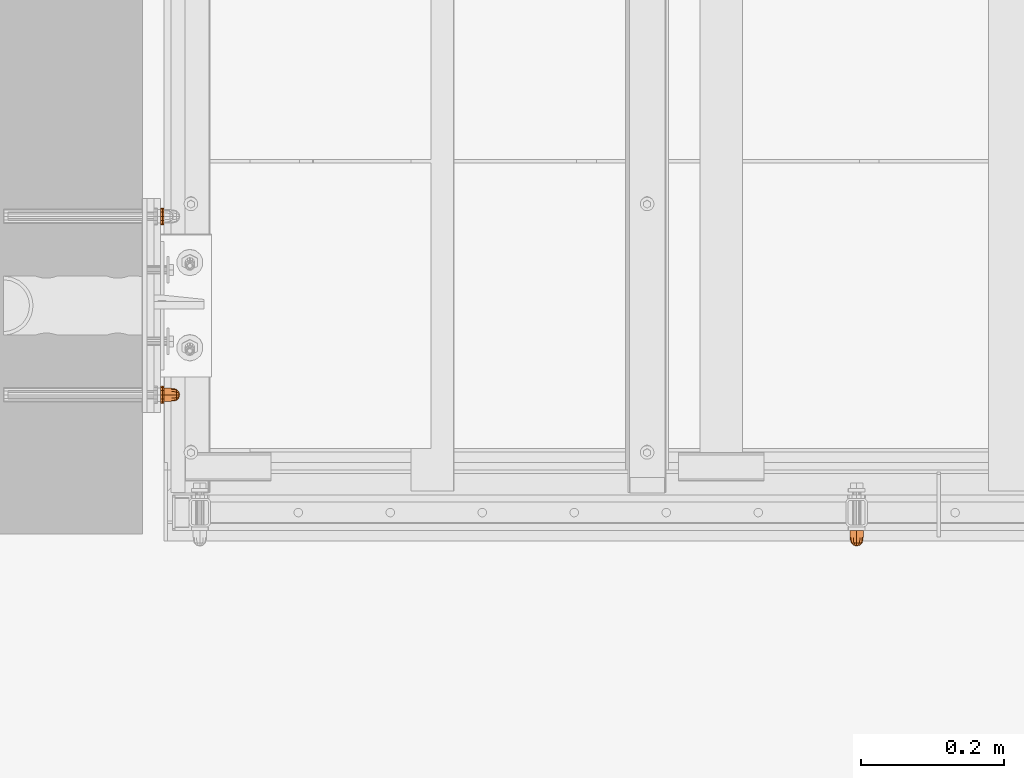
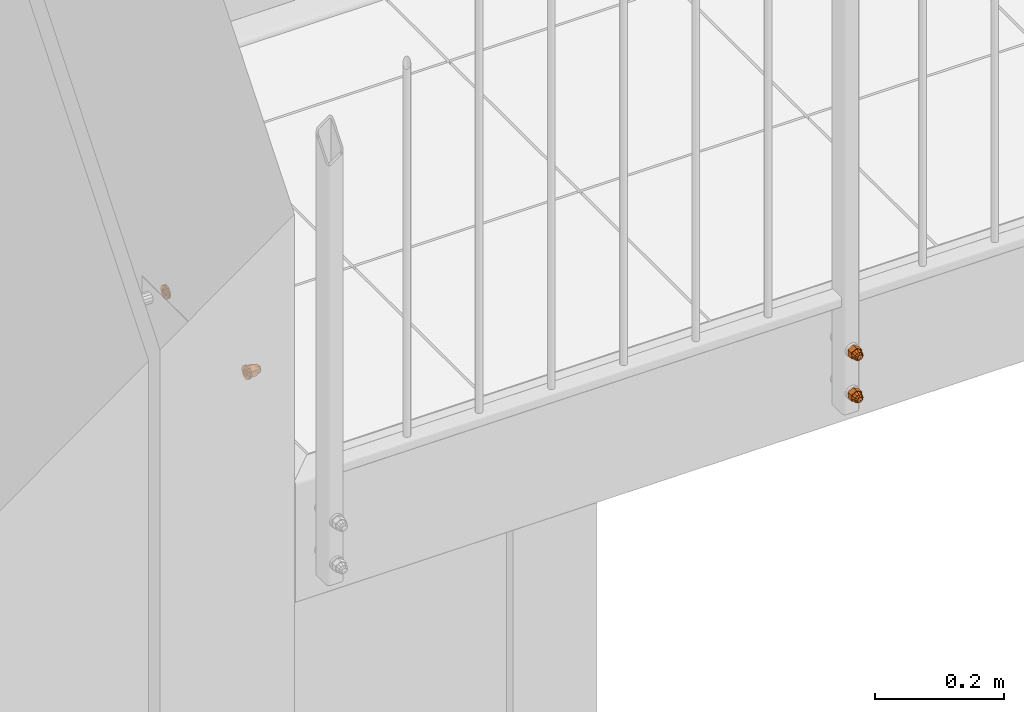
# One storey, part 116 of 162: 7 proxies.
"""IFC2X3 building model written with IfcOpenShell, lengths in millimetres."""

from ifc_helpers import new_model, entity, si_unit, converted_unit, origin_with_axes, place, context, project, spatial, faceted_brep, material, element, save


model = new_model("IFC2X3")

# Units and contexts
model_context = context("Model", 3, precision=1e-09, world=origin_with_axes())
ifc_project = project(units=[si_unit("LENGTHUNIT", "METRE", prefix="MILLI"), si_unit("AREAUNIT", "SQUARE_METRE"), si_unit("VOLUMEUNIT", "CUBIC_METRE"), converted_unit("PLANEANGLEUNIT", "DEGREE", entity("IfcPlaneAngleMeasure", 0.01745329), si_unit("PLANEANGLEUNIT", "RADIAN"), dimensions=[0, 0, 0, 0, 0, 0, 0])], contexts=[model_context])

# Site, building, storey
site_placement = place(None, origin_with_axes())
site = spatial("IfcSite", under=ifc_project, at=site_placement, Name="Hermannstra?e 1a, 60318 Frankfurt", CompositionType="ELEMENT")
building_placement = place(site_placement, origin_with_axes())
building = spatial("IfcBuilding", under=site, at=building_placement, Name="Struktur 1", CompositionType="ELEMENT")
storey_placement = place(building_placement, origin_with_axes())
storey = spatial("IfcBuildingStorey", under=building, at=storey_placement, Name="Default Storey", CompositionType="ELEMENT", Elevation=0.0)

# Proxies
ifc_material_1 = material(Name="Kein")
proxy_1_placement = place(None, origin_with_axes())
element("IfcBuildingElementProxy", 1, at=proxy_1_placement, inside=storey, material=ifc_material_1, ObjectType="-", context=model_context, shape_type="Brep", body=[
    faceted_brep([(3517.30936482, 1490.609373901, 3815.0), (3517.30936482, 1480.609373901, 3815.0), (3518.113212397, 1480.609373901, 3812.0), (3518.113212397, 1490.609373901, 3812.0), (3520.30936482, 1480.609373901, 3809.803847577), (3520.30936482, 1490.609373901, 3809.803847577), (3518.113212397, 1490.609373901, 3818.0), (3518.113212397, 1480.609373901, 3818.0), (3513.829495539, 1490.609373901, 3820.473205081), (3523.30936482, 1490.609373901, 3825.946410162), (3532.7892341, 1490.609373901, 3820.473205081), (3532.7892341, 1490.609373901, 3809.526794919), (3523.30936482, 1490.609373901, 3804.053589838), (3513.829495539, 1490.609373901, 3809.526794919), (3520.30936482, 1490.609373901, 3820.196152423), (3523.30936482, 1490.609373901, 3809.0), (3526.30936482, 1490.609373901, 3809.803847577), (3528.505517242, 1490.609373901, 3812.0), (3529.30936482, 1490.609373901, 3815.0), (3528.505517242, 1490.609373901, 3818.0), (3526.30936482, 1490.609373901, 3820.196152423), (3523.30936482, 1490.609373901, 3821.0), (3523.30936482, 1480.609373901, 3825.946410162), (3513.829495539, 1480.609373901, 3820.473205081), (3513.829495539, 1480.609373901, 3809.526794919), (3523.30936482, 1480.609373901, 3804.053589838), (3532.7892341, 1480.609373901, 3809.526794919), (3532.7892341, 1480.609373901, 3820.473205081), (3520.30936482, 1480.609373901, 3820.196152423), (3523.30936482, 1480.609373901, 3821.0), (3526.30936482, 1480.609373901, 3820.196152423), (3528.505517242, 1480.609373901, 3818.0), (3529.30936482, 1480.609373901, 3815.0), (3528.505517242, 1480.609373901, 3812.0), (3526.30936482, 1480.609373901, 3809.803847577), (3523.30936482, 1480.609373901, 3809.0)], [[[0, 1, 2, 3]], [[3, 2, 4, 5]], [[1, 0, 6, 7]], [[8, 9, 10, 11, 12, 13], [14, 6, 0, 3, 5, 15, 16, 17, 18, 19, 20, 21]], [[22, 23, 24, 25, 26, 27], [1, 7, 28, 29, 30, 31, 32, 33, 34, 35, 4, 2]], [[7, 6, 14, 28]], [[24, 23, 8, 13]], [[5, 4, 35, 15]], [[13, 12, 25, 24]], [[28, 14, 21, 29]], [[23, 22, 9, 8]], [[15, 35, 34, 16]], [[12, 11, 26, 25]], [[29, 21, 20, 30]], [[22, 27, 10, 9]], [[16, 34, 33, 17]], [[27, 26, 11, 10]], [[30, 20, 19, 31]], [[17, 33, 32, 18]], [[31, 19, 18, 32]]]),
    faceted_brep([(3523.30936482, 1480.609373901, 3824.0), (3523.30936482, 1477.609373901, 3824.0), (3527.80936482, 1477.609373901, 3822.794228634), (3527.80936482, 1480.609373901, 3822.794228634), (3518.80936482, 1480.609373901, 3822.794228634), (3518.80936482, 1477.609373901, 3822.794228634), (3515.515136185, 1477.609373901, 3810.5), (3518.80936482, 1477.609373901, 3807.205771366), (3523.30936482, 1477.609373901, 3806.0), (3527.80936482, 1477.609373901, 3807.205771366), (3531.103593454, 1477.609373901, 3810.5), (3532.30936482, 1477.609373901, 3815.0), (3531.103593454, 1477.609373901, 3819.5), (3515.515136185, 1477.609373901, 3819.5), (3514.30936482, 1477.609373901, 3815.0), (3531.103593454, 1480.609373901, 3810.5), (3527.80936482, 1480.609373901, 3807.205771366), (3523.30936482, 1480.609373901, 3806.0), (3518.80936482, 1480.609373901, 3807.205771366), (3515.515136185, 1480.609373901, 3810.5), (3514.30936482, 1480.609373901, 3815.0), (3515.515136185, 1480.609373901, 3819.5), (3531.103593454, 1480.609373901, 3819.5), (3532.30936482, 1480.609373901, 3815.0)], [[[0, 1, 2, 3]], [[1, 0, 4, 5]], [[6, 7, 8, 9, 10, 11, 12, 2, 1, 5, 13, 14]], [[15, 16, 17, 18, 19, 20, 21, 4, 0, 3, 22, 23]], [[3, 2, 12, 22]], [[5, 4, 21, 13]], [[22, 12, 11, 23]], [[13, 21, 20, 14]], [[7, 18, 17, 8]], [[19, 6, 14, 20]], [[18, 7, 6, 19]], [[23, 11, 10, 15]], [[8, 17, 16, 9]], [[15, 10, 9, 16]]]),
    faceted_brep([(3515.515136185, 1477.609373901, 3819.5), (3516.55936482, 1473.109373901, 3818.897114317), (3519.412250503, 1473.109373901, 3821.75), (3518.80936482, 1477.609373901, 3822.794228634), (3531.103593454, 1477.609373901, 3810.5), (3527.80936482, 1477.609373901, 3807.205771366), (3523.30936482, 1477.609373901, 3806.0), (3518.80936482, 1477.609373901, 3807.205771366), (3515.515136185, 1477.609373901, 3810.5), (3514.30936482, 1477.609373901, 3815.0), (3523.30936482, 1477.609373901, 3824.0), (3527.80936482, 1477.609373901, 3822.794228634), (3531.103593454, 1477.609373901, 3819.5), (3532.30936482, 1477.609373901, 3815.0), (3523.30936482, 1473.109373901, 3822.794228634), (3515.515136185, 1473.109373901, 3815.0), (3518.80936482, 1469.815145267, 3815.0), (3519.412250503, 1469.815145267, 3817.25), (3527.206479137, 1473.109373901, 3821.75), (3521.05936482, 1469.815145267, 3818.897114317), (3516.55936482, 1473.109373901, 3811.102885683), (3519.412250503, 1469.815145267, 3812.75), (3523.30936482, 1469.815145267, 3819.5), (3523.30936482, 1468.609373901, 3815.0), (3519.412250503, 1473.109373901, 3808.25), (3521.05936482, 1469.815145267, 3811.102885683), (3523.30936482, 1473.109373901, 3807.205771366), (3530.05936482, 1473.109373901, 3818.897114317), (3525.55936482, 1469.815145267, 3818.897114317), (3523.30936482, 1469.815145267, 3810.5), (3527.206479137, 1473.109373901, 3808.25), (3525.55936482, 1469.815145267, 3811.102885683), (3531.103593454, 1473.109373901, 3815.0), (3527.206479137, 1469.815145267, 3817.25), (3530.05936482, 1473.109373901, 3811.102885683), (3527.206479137, 1469.815145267, 3812.75), (3527.80936482, 1469.815145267, 3815.0)], [[[0, 1, 2, 3]], [[4, 5, 6, 7, 8, 9, 0, 3, 10, 11, 12, 13]], [[3, 2, 14, 10]], [[15, 16, 17, 1]], [[1, 0, 9, 15]], [[10, 14, 18, 11]], [[1, 17, 19, 2]], [[16, 15, 20, 21]], [[2, 19, 22, 14]], [[23, 17, 16]], [[24, 25, 21, 20]], [[23, 16, 21]], [[24, 7, 6, 26]], [[20, 8, 7, 24]], [[15, 9, 8, 20]], [[11, 18, 27, 12]], [[14, 22, 28, 18]], [[23, 19, 17]], [[26, 29, 25, 24]], [[23, 21, 25]], [[23, 22, 19]], [[26, 6, 5, 30]], [[29, 26, 30, 31]], [[23, 25, 29]], [[12, 27, 32, 13]], [[18, 28, 33, 27]], [[23, 28, 22]], [[23, 29, 31]], [[23, 33, 28]], [[30, 5, 4, 34]], [[31, 30, 34, 35]], [[23, 31, 35]], [[13, 32, 34, 4]], [[27, 33, 36, 32]], [[23, 36, 33]], [[23, 35, 36]], [[35, 34, 32, 36]]]),
])
proxy_2_placement = place(None, origin_with_axes())
element("IfcBuildingElementProxy", 2, at=proxy_2_placement, inside=storey, material=ifc_material_1, ObjectType="-", context=model_context, shape_type="Brep", body=[
    faceted_brep([(3517.30936482, 1490.609373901, 3895.0), (3517.30936482, 1480.609373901, 3895.0), (3518.113212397, 1480.609373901, 3892.0), (3518.113212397, 1490.609373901, 3892.0), (3520.30936482, 1480.609373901, 3889.803847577), (3520.30936482, 1490.609373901, 3889.803847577), (3518.113212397, 1490.609373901, 3898.0), (3518.113212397, 1480.609373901, 3898.0), (3513.829495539, 1490.609373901, 3900.473205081), (3523.30936482, 1490.609373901, 3905.946410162), (3532.7892341, 1490.609373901, 3900.473205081), (3532.7892341, 1490.609373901, 3889.526794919), (3523.30936482, 1490.609373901, 3884.053589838), (3513.829495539, 1490.609373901, 3889.526794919), (3520.30936482, 1490.609373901, 3900.196152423), (3523.30936482, 1490.609373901, 3889.0), (3526.30936482, 1490.609373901, 3889.803847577), (3528.505517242, 1490.609373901, 3892.0), (3529.30936482, 1490.609373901, 3895.0), (3528.505517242, 1490.609373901, 3898.0), (3526.30936482, 1490.609373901, 3900.196152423), (3523.30936482, 1490.609373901, 3901.0), (3523.30936482, 1480.609373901, 3905.946410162), (3513.829495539, 1480.609373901, 3900.473205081), (3513.829495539, 1480.609373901, 3889.526794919), (3523.30936482, 1480.609373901, 3884.053589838), (3532.7892341, 1480.609373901, 3889.526794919), (3532.7892341, 1480.609373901, 3900.473205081), (3520.30936482, 1480.609373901, 3900.196152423), (3523.30936482, 1480.609373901, 3901.0), (3526.30936482, 1480.609373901, 3900.196152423), (3528.505517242, 1480.609373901, 3898.0), (3529.30936482, 1480.609373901, 3895.0), (3528.505517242, 1480.609373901, 3892.0), (3526.30936482, 1480.609373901, 3889.803847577), (3523.30936482, 1480.609373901, 3889.0)], [[[0, 1, 2, 3]], [[3, 2, 4, 5]], [[1, 0, 6, 7]], [[8, 9, 10, 11, 12, 13], [14, 6, 0, 3, 5, 15, 16, 17, 18, 19, 20, 21]], [[22, 23, 24, 25, 26, 27], [1, 7, 28, 29, 30, 31, 32, 33, 34, 35, 4, 2]], [[7, 6, 14, 28]], [[24, 23, 8, 13]], [[5, 4, 35, 15]], [[13, 12, 25, 24]], [[28, 14, 21, 29]], [[23, 22, 9, 8]], [[15, 35, 34, 16]], [[12, 11, 26, 25]], [[29, 21, 20, 30]], [[22, 27, 10, 9]], [[16, 34, 33, 17]], [[27, 26, 11, 10]], [[30, 20, 19, 31]], [[17, 33, 32, 18]], [[31, 19, 18, 32]]]),
    faceted_brep([(3523.30936482, 1480.609373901, 3904.0), (3523.30936482, 1477.609373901, 3904.0), (3527.80936482, 1477.609373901, 3902.794228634), (3527.80936482, 1480.609373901, 3902.794228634), (3518.80936482, 1480.609373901, 3902.794228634), (3518.80936482, 1477.609373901, 3902.794228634), (3515.515136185, 1477.609373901, 3890.5), (3518.80936482, 1477.609373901, 3887.205771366), (3523.30936482, 1477.609373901, 3886.0), (3527.80936482, 1477.609373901, 3887.205771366), (3531.103593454, 1477.609373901, 3890.5), (3532.30936482, 1477.609373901, 3895.0), (3531.103593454, 1477.609373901, 3899.5), (3515.515136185, 1477.609373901, 3899.5), (3514.30936482, 1477.609373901, 3895.0), (3531.103593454, 1480.609373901, 3890.5), (3527.80936482, 1480.609373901, 3887.205771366), (3523.30936482, 1480.609373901, 3886.0), (3518.80936482, 1480.609373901, 3887.205771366), (3515.515136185, 1480.609373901, 3890.5), (3514.30936482, 1480.609373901, 3895.0), (3515.515136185, 1480.609373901, 3899.5), (3531.103593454, 1480.609373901, 3899.5), (3532.30936482, 1480.609373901, 3895.0)], [[[0, 1, 2, 3]], [[1, 0, 4, 5]], [[6, 7, 8, 9, 10, 11, 12, 2, 1, 5, 13, 14]], [[15, 16, 17, 18, 19, 20, 21, 4, 0, 3, 22, 23]], [[3, 2, 12, 22]], [[5, 4, 21, 13]], [[22, 12, 11, 23]], [[13, 21, 20, 14]], [[7, 18, 17, 8]], [[19, 6, 14, 20]], [[18, 7, 6, 19]], [[23, 11, 10, 15]], [[8, 17, 16, 9]], [[15, 10, 9, 16]]]),
    faceted_brep([(3515.515136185, 1477.609373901, 3899.5), (3516.55936482, 1473.109373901, 3898.897114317), (3519.412250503, 1473.109373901, 3901.75), (3518.80936482, 1477.609373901, 3902.794228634), (3531.103593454, 1477.609373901, 3890.5), (3527.80936482, 1477.609373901, 3887.205771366), (3523.30936482, 1477.609373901, 3886.0), (3518.80936482, 1477.609373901, 3887.205771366), (3515.515136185, 1477.609373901, 3890.5), (3514.30936482, 1477.609373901, 3895.0), (3523.30936482, 1477.609373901, 3904.0), (3527.80936482, 1477.609373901, 3902.794228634), (3531.103593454, 1477.609373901, 3899.5), (3532.30936482, 1477.609373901, 3895.0), (3523.30936482, 1473.109373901, 3902.794228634), (3515.515136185, 1473.109373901, 3895.0), (3518.80936482, 1469.815145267, 3895.0), (3519.412250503, 1469.815145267, 3897.25), (3527.206479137, 1473.109373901, 3901.75), (3521.05936482, 1469.815145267, 3898.897114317), (3516.55936482, 1473.109373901, 3891.102885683), (3519.412250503, 1469.815145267, 3892.75), (3523.30936482, 1469.815145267, 3899.5), (3523.30936482, 1468.609373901, 3895.0), (3519.412250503, 1473.109373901, 3888.25), (3521.05936482, 1469.815145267, 3891.102885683), (3523.30936482, 1473.109373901, 3887.205771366), (3530.05936482, 1473.109373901, 3898.897114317), (3525.55936482, 1469.815145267, 3898.897114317), (3523.30936482, 1469.815145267, 3890.5), (3527.206479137, 1473.109373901, 3888.25), (3525.55936482, 1469.815145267, 3891.102885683), (3531.103593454, 1473.109373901, 3895.0), (3527.206479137, 1469.815145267, 3897.25), (3530.05936482, 1473.109373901, 3891.102885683), (3527.206479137, 1469.815145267, 3892.75), (3527.80936482, 1469.815145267, 3895.0)], [[[0, 1, 2, 3]], [[4, 5, 6, 7, 8, 9, 0, 3, 10, 11, 12, 13]], [[3, 2, 14, 10]], [[15, 16, 17, 1]], [[1, 0, 9, 15]], [[10, 14, 18, 11]], [[1, 17, 19, 2]], [[16, 15, 20, 21]], [[2, 19, 22, 14]], [[23, 17, 16]], [[24, 25, 21, 20]], [[23, 16, 21]], [[24, 7, 6, 26]], [[20, 8, 7, 24]], [[15, 9, 8, 20]], [[11, 18, 27, 12]], [[14, 22, 28, 18]], [[23, 19, 17]], [[26, 29, 25, 24]], [[23, 21, 25]], [[23, 22, 19]], [[26, 6, 5, 30]], [[29, 26, 30, 31]], [[23, 25, 29]], [[12, 27, 32, 13]], [[18, 28, 33, 27]], [[23, 28, 22]], [[23, 29, 31]], [[23, 33, 28]], [[30, 5, 4, 34]], [[31, 30, 34, 35]], [[23, 31, 35]], [[13, 32, 34, 4]], [[27, 33, 36, 32]], [[23, 36, 33]], [[23, 35, 36]], [[35, 34, 32, 36]]]),
])
ifc_material_2 = material(Name="A4")
proxy_3_placement = place(None, origin_with_axes())
element("IfcBuildingElementProxy", 3, at=proxy_3_placement, inside=storey, material=ifc_material_2, ObjectType="-", context=model_context, shape_type="Brep", body=[
    faceted_brep([(2553.310071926, 1920.217776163, 4074.0), (2550.810071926, 1920.217776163, 4074.0), (2550.810071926, 1924.610081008, 4069.607695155), (2553.310071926, 1924.610081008, 4069.607695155), (2553.310071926, 1930.610081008, 4068.0), (2553.310071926, 1936.610081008, 4069.607695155), (2553.310071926, 1941.002385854, 4074.0), (2553.310071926, 1942.610081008, 4080.0), (2553.310071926, 1941.002385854, 4086.0), (2553.310071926, 1936.610081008, 4090.392304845), (2553.310071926, 1930.610081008, 4092.0), (2553.310071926, 1924.610081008, 4090.392304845), (2553.310071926, 1920.217776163, 4086.0), (2553.310071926, 1918.610081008, 4080.0), (2553.310071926, 1933.860081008, 4074.370834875), (2553.310071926, 1930.610081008, 4073.5), (2553.310071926, 1927.360081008, 4074.370834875), (2553.310071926, 1924.980915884, 4076.75), (2553.310071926, 1924.110081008, 4080.0), (2553.310071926, 1924.980915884, 4083.25), (2553.310071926, 1927.360081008, 4085.629165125), (2553.310071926, 1930.610081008, 4086.5), (2553.310071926, 1933.860081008, 4085.629165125), (2553.310071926, 1936.239246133, 4083.25), (2553.310071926, 1937.110081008, 4080.0), (2553.310071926, 1936.239246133, 4076.75), (2550.810071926, 1918.610081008, 4080.0), (2550.810071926, 1920.217776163, 4086.0), (2550.810071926, 1924.610081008, 4090.392304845), (2550.810071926, 1930.610081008, 4092.0), (2550.810071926, 1936.610081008, 4090.392304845), (2550.810071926, 1941.002385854, 4086.0), (2550.810071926, 1942.610081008, 4080.0), (2550.810071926, 1941.002385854, 4074.0), (2550.810071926, 1936.610081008, 4069.607695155), (2550.810071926, 1930.610081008, 4068.0), (2550.810071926, 1924.110081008, 4080.0), (2550.810071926, 1924.980915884, 4076.75), (2550.810071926, 1927.360081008, 4074.370834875), (2550.810071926, 1930.610081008, 4073.5), (2550.810071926, 1933.860081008, 4074.370834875), (2550.810071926, 1936.239246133, 4076.75), (2550.810071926, 1937.110081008, 4080.0), (2550.810071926, 1936.239246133, 4083.25), (2550.810071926, 1933.860081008, 4085.629165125), (2550.810071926, 1930.610081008, 4086.5), (2550.810071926, 1927.360081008, 4085.629165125), (2550.810071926, 1924.980915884, 4083.25)], [[[0, 1, 2, 3]], [[3, 4, 5, 6, 7, 8, 9, 10, 11, 12, 13, 0], [14, 15, 16, 17, 18, 19, 20, 21, 22, 23, 24, 25]], [[1, 26, 27, 28, 29, 30, 31, 32, 33, 34, 35, 2], [36, 37, 38, 39, 40, 41, 42, 43, 44, 45, 46, 47]], [[37, 17, 16, 38]], [[1, 0, 13, 26]], [[17, 37, 36, 18]], [[38, 16, 15, 39]], [[3, 2, 35, 4]], [[26, 13, 12, 27]], [[18, 36, 47, 19]], [[39, 15, 14, 40]], [[4, 35, 34, 5]], [[27, 12, 11, 28]], [[19, 47, 46, 20]], [[40, 14, 25, 41]], [[5, 34, 33, 6]], [[24, 42, 41, 25]], [[28, 11, 10, 29]], [[20, 46, 45, 21]], [[23, 43, 42, 24]], [[6, 33, 32, 7]], [[44, 22, 21, 45]], [[43, 23, 22, 44]], [[29, 10, 9, 30]], [[7, 32, 31, 8]], [[30, 9, 8, 31]]]),
])
ifc_material_3 = material(Name="Kunststoff")
proxy_4_placement = place(None, origin_with_axes())
element("IfcBuildingElementProxy", 4, at=proxy_4_placement, inside=storey, material=ifc_material_3, ObjectType="-", context=model_context, shape_type="Brep", body=[
    faceted_brep([(2550.810071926, 1941.002385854, 4074.0), (2548.310071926, 1941.002385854, 4074.0), (2548.310071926, 1942.610081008, 4080.0), (2550.810071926, 1942.610081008, 4080.0), (2548.310071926, 1936.610081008, 4069.607695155), (2548.310071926, 1930.610081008, 4068.0), (2548.310071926, 1924.610081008, 4069.607695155), (2548.310071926, 1920.217776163, 4074.0), (2548.310071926, 1918.610081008, 4080.0), (2548.310071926, 1920.217776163, 4086.0), (2548.310071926, 1924.610081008, 4090.392304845), (2548.310071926, 1930.610081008, 4092.0), (2548.310071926, 1936.610081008, 4090.392304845), (2548.310071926, 1941.002385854, 4086.0), (2548.310071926, 1933.860081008, 4074.370834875), (2548.310071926, 1936.239246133, 4076.75), (2548.310071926, 1937.110081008, 4080.0), (2548.310071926, 1936.239246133, 4083.25), (2548.310071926, 1933.860081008, 4085.629165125), (2548.310071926, 1930.610081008, 4086.5), (2548.310071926, 1927.360081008, 4085.629165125), (2548.310071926, 1924.980915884, 4083.25), (2548.310071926, 1924.110081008, 4080.0), (2548.310071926, 1924.980915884, 4076.75), (2548.310071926, 1927.360081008, 4074.370834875), (2548.310071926, 1930.610081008, 4073.5), (2550.810071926, 1937.110081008, 4080.0), (2550.810071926, 1936.239246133, 4076.75), (2550.810071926, 1936.610081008, 4069.607695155), (2550.810071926, 1941.002385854, 4086.0), (2550.810071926, 1936.610081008, 4090.392304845), (2550.810071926, 1930.610081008, 4092.0), (2550.810071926, 1924.610081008, 4090.392304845), (2550.810071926, 1920.217776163, 4086.0), (2550.810071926, 1918.610081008, 4080.0), (2550.810071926, 1920.217776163, 4074.0), (2550.810071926, 1924.610081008, 4069.607695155), (2550.810071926, 1930.610081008, 4068.0), (2550.810071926, 1933.860081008, 4074.370834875), (2550.810071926, 1930.610081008, 4073.5), (2550.810071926, 1927.360081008, 4074.370834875), (2550.810071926, 1924.980915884, 4076.75), (2550.810071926, 1924.110081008, 4080.0), (2550.810071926, 1924.980915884, 4083.25), (2550.810071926, 1927.360081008, 4085.629165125), (2550.810071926, 1930.610081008, 4086.5), (2550.810071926, 1933.860081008, 4085.629165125), (2550.810071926, 1936.239246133, 4083.25)], [[[0, 1, 2, 3]], [[1, 4, 5, 6, 7, 8, 9, 10, 11, 12, 13, 2], [14, 15, 16, 17, 18, 19, 20, 21, 22, 23, 24, 25]], [[26, 16, 15, 27]], [[28, 0, 3, 29, 30, 31, 32, 33, 34, 35, 36, 37], [26, 27, 38, 39, 40, 41, 42, 43, 44, 45, 46, 47]], [[1, 0, 28, 4]], [[16, 26, 47, 17]], [[3, 2, 13, 29]], [[27, 15, 14, 38]], [[4, 28, 37, 5]], [[17, 47, 46, 18]], [[29, 13, 12, 30]], [[38, 14, 25, 39]], [[18, 46, 45, 19]], [[5, 37, 36, 6]], [[39, 25, 24, 40]], [[30, 12, 11, 31]], [[19, 45, 44, 20]], [[6, 36, 35, 7]], [[40, 24, 23, 41]], [[31, 11, 10, 32]], [[20, 44, 43, 21]], [[7, 35, 34, 8]], [[41, 23, 22, 42]], [[32, 10, 9, 33]], [[21, 43, 42, 22]], [[8, 34, 33, 9]]]),
])
proxy_5_placement = place(None, origin_with_axes())
element("IfcBuildingElementProxy", 5, at=proxy_5_placement, inside=storey, material=ifc_material_2, ObjectType="-", context=model_context, shape_type="Brep", body=[
    faceted_brep([(2553.310071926, 1686.610081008, 4080.0), (2563.310071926, 1686.610081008, 4080.0), (2563.310071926, 1685.806233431, 4083.0), (2553.310071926, 1685.806233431, 4083.0), (2563.310071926, 1683.610081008, 4085.196152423), (2553.310071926, 1683.610081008, 4085.196152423), (2553.310071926, 1685.806233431, 4077.0), (2563.310071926, 1685.806233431, 4077.0), (2553.310071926, 1690.089950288, 4074.526794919), (2553.310071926, 1680.610081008, 4069.053589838), (2553.310071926, 1671.130211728, 4074.526794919), (2553.310071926, 1671.130211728, 4085.473205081), (2553.310071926, 1680.610081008, 4090.946410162), (2553.310071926, 1690.089950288, 4085.473205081), (2553.310071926, 1683.610081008, 4074.803847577), (2553.310071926, 1680.610081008, 4086.0), (2553.310071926, 1677.610081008, 4085.196152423), (2553.310071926, 1675.413928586, 4083.0), (2553.310071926, 1674.610081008, 4080.0), (2553.310071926, 1675.413928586, 4077.0), (2553.310071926, 1677.610081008, 4074.803847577), (2553.310071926, 1680.610081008, 4074.0), (2563.310071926, 1680.610081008, 4069.053589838), (2563.310071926, 1690.089950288, 4074.526794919), (2563.310071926, 1690.089950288, 4085.473205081), (2563.310071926, 1680.610081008, 4090.946410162), (2563.310071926, 1671.130211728, 4085.473205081), (2563.310071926, 1671.130211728, 4074.526794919), (2563.310071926, 1683.610081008, 4074.803847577), (2563.310071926, 1680.610081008, 4074.0), (2563.310071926, 1677.610081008, 4074.803847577), (2563.310071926, 1675.413928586, 4077.0), (2563.310071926, 1674.610081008, 4080.0), (2563.310071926, 1675.413928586, 4083.0), (2563.310071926, 1677.610081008, 4085.196152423), (2563.310071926, 1680.610081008, 4086.0)], [[[0, 1, 2, 3]], [[3, 2, 4, 5]], [[1, 0, 6, 7]], [[8, 9, 10, 11, 12, 13], [14, 6, 0, 3, 5, 15, 16, 17, 18, 19, 20, 21]], [[22, 23, 24, 25, 26, 27], [1, 7, 28, 29, 30, 31, 32, 33, 34, 35, 4, 2]], [[7, 6, 14, 28]], [[24, 23, 8, 13]], [[5, 4, 35, 15]], [[13, 12, 25, 24]], [[28, 14, 21, 29]], [[23, 22, 9, 8]], [[15, 35, 34, 16]], [[12, 11, 26, 25]], [[29, 21, 20, 30]], [[22, 27, 10, 9]], [[16, 34, 33, 17]], [[27, 26, 11, 10]], [[30, 20, 19, 31]], [[17, 33, 32, 18]], [[31, 19, 18, 32]]]),
    faceted_brep([(2563.310071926, 1680.610081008, 4071.0), (2566.310071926, 1680.610081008, 4071.0), (2566.310071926, 1676.110081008, 4072.205771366), (2563.310071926, 1676.110081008, 4072.205771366), (2563.310071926, 1685.110081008, 4072.205771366), (2566.310071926, 1685.110081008, 4072.205771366), (2566.310071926, 1688.404309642, 4084.5), (2566.310071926, 1685.110081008, 4087.794228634), (2566.310071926, 1680.610081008, 4089.0), (2566.310071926, 1676.110081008, 4087.794228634), (2566.310071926, 1672.815852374, 4084.5), (2566.310071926, 1671.610081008, 4080.0), (2566.310071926, 1672.815852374, 4075.5), (2566.310071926, 1688.404309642, 4075.5), (2566.310071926, 1689.610081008, 4080.0), (2563.310071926, 1672.815852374, 4084.5), (2563.310071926, 1676.110081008, 4087.794228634), (2563.310071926, 1680.610081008, 4089.0), (2563.310071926, 1685.110081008, 4087.794228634), (2563.310071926, 1688.404309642, 4084.5), (2563.310071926, 1689.610081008, 4080.0), (2563.310071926, 1688.404309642, 4075.5), (2563.310071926, 1672.815852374, 4075.5), (2563.310071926, 1671.610081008, 4080.0)], [[[0, 1, 2, 3]], [[1, 0, 4, 5]], [[6, 7, 8, 9, 10, 11, 12, 2, 1, 5, 13, 14]], [[15, 16, 17, 18, 19, 20, 21, 4, 0, 3, 22, 23]], [[3, 2, 12, 22]], [[5, 4, 21, 13]], [[22, 12, 11, 23]], [[13, 21, 20, 14]], [[7, 18, 17, 8]], [[19, 6, 14, 20]], [[18, 7, 6, 19]], [[23, 11, 10, 15]], [[8, 17, 16, 9]], [[15, 10, 9, 16]]]),
    faceted_brep([(2566.310071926, 1688.404309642, 4075.5), (2570.810071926, 1687.360081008, 4076.102885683), (2570.810071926, 1684.507195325, 4073.25), (2566.310071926, 1685.110081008, 4072.205771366), (2566.310071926, 1672.815852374, 4084.5), (2566.310071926, 1676.110081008, 4087.794228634), (2566.310071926, 1680.610081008, 4089.0), (2566.310071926, 1685.110081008, 4087.794228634), (2566.310071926, 1688.404309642, 4084.5), (2566.310071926, 1689.610081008, 4080.0), (2566.310071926, 1680.610081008, 4071.0), (2566.310071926, 1676.110081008, 4072.205771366), (2566.310071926, 1672.815852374, 4075.5), (2566.310071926, 1671.610081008, 4080.0), (2570.810071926, 1680.610081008, 4072.205771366), (2570.810071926, 1688.404309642, 4080.0), (2574.104300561, 1685.110081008, 4080.0), (2574.104300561, 1684.507195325, 4077.75), (2570.810071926, 1676.712966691, 4073.25), (2574.104300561, 1682.860081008, 4076.102885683), (2570.810071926, 1687.360081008, 4083.897114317), (2574.104300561, 1684.507195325, 4082.25), (2574.104300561, 1680.610081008, 4075.5), (2575.310071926, 1680.610081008, 4080.0), (2570.810071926, 1684.507195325, 4086.75), (2574.104300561, 1682.860081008, 4083.897114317), (2570.810071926, 1680.610081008, 4087.794228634), (2570.810071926, 1673.860081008, 4076.102885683), (2574.104300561, 1678.360081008, 4076.102885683), (2574.104300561, 1680.610081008, 4084.5), (2570.810071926, 1676.712966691, 4086.75), (2574.104300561, 1678.360081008, 4083.897114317), (2570.810071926, 1672.815852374, 4080.0), (2574.104300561, 1676.712966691, 4077.75), (2570.810071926, 1673.860081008, 4083.897114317), (2574.104300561, 1676.712966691, 4082.25), (2574.104300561, 1676.110081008, 4080.0)], [[[0, 1, 2, 3]], [[4, 5, 6, 7, 8, 9, 0, 3, 10, 11, 12, 13]], [[3, 2, 14, 10]], [[15, 16, 17, 1]], [[1, 0, 9, 15]], [[10, 14, 18, 11]], [[1, 17, 19, 2]], [[16, 15, 20, 21]], [[2, 19, 22, 14]], [[23, 17, 16]], [[24, 25, 21, 20]], [[23, 16, 21]], [[24, 7, 6, 26]], [[20, 8, 7, 24]], [[15, 9, 8, 20]], [[11, 18, 27, 12]], [[14, 22, 28, 18]], [[23, 19, 17]], [[26, 29, 25, 24]], [[23, 21, 25]], [[23, 22, 19]], [[26, 6, 5, 30]], [[29, 26, 30, 31]], [[23, 25, 29]], [[12, 27, 32, 13]], [[18, 28, 33, 27]], [[23, 28, 22]], [[23, 29, 31]], [[23, 33, 28]], [[30, 5, 4, 34]], [[31, 30, 34, 35]], [[23, 31, 35]], [[13, 32, 34, 4]], [[27, 33, 36, 32]], [[23, 36, 33]], [[23, 35, 36]], [[35, 34, 32, 36]]]),
])
proxy_6_placement = place(None, origin_with_axes())
element("IfcBuildingElementProxy", 6, at=proxy_6_placement, inside=storey, material=ifc_material_2, ObjectType="-", context=model_context, shape_type="Brep", body=[
    faceted_brep([(2553.310071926, 1670.217776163, 4074.0), (2550.810071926, 1670.217776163, 4074.0), (2550.810071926, 1674.610081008, 4069.607695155), (2553.310071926, 1674.610081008, 4069.607695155), (2553.310071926, 1680.610081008, 4068.0), (2553.310071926, 1686.610081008, 4069.607695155), (2553.310071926, 1691.002385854, 4074.0), (2553.310071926, 1692.610081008, 4080.0), (2553.310071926, 1691.002385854, 4086.0), (2553.310071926, 1686.610081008, 4090.392304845), (2553.310071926, 1680.610081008, 4092.0), (2553.310071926, 1674.610081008, 4090.392304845), (2553.310071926, 1670.217776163, 4086.0), (2553.310071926, 1668.610081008, 4080.0), (2553.310071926, 1683.860081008, 4074.370834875), (2553.310071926, 1680.610081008, 4073.5), (2553.310071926, 1677.360081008, 4074.370834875), (2553.310071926, 1674.980915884, 4076.75), (2553.310071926, 1674.110081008, 4080.0), (2553.310071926, 1674.980915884, 4083.25), (2553.310071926, 1677.360081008, 4085.629165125), (2553.310071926, 1680.610081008, 4086.5), (2553.310071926, 1683.860081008, 4085.629165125), (2553.310071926, 1686.239246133, 4083.25), (2553.310071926, 1687.110081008, 4080.0), (2553.310071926, 1686.239246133, 4076.75), (2550.810071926, 1668.610081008, 4080.0), (2550.810071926, 1670.217776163, 4086.0), (2550.810071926, 1674.610081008, 4090.392304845), (2550.810071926, 1680.610081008, 4092.0), (2550.810071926, 1686.610081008, 4090.392304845), (2550.810071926, 1691.002385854, 4086.0), (2550.810071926, 1692.610081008, 4080.0), (2550.810071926, 1691.002385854, 4074.0), (2550.810071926, 1686.610081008, 4069.607695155), (2550.810071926, 1680.610081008, 4068.0), (2550.810071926, 1674.110081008, 4080.0), (2550.810071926, 1674.980915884, 4076.75), (2550.810071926, 1677.360081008, 4074.370834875), (2550.810071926, 1680.610081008, 4073.5), (2550.810071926, 1683.860081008, 4074.370834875), (2550.810071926, 1686.239246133, 4076.75), (2550.810071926, 1687.110081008, 4080.0), (2550.810071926, 1686.239246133, 4083.25), (2550.810071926, 1683.860081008, 4085.629165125), (2550.810071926, 1680.610081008, 4086.5), (2550.810071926, 1677.360081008, 4085.629165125), (2550.810071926, 1674.980915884, 4083.25)], [[[0, 1, 2, 3]], [[3, 4, 5, 6, 7, 8, 9, 10, 11, 12, 13, 0], [14, 15, 16, 17, 18, 19, 20, 21, 22, 23, 24, 25]], [[1, 26, 27, 28, 29, 30, 31, 32, 33, 34, 35, 2], [36, 37, 38, 39, 40, 41, 42, 43, 44, 45, 46, 47]], [[37, 17, 16, 38]], [[1, 0, 13, 26]], [[17, 37, 36, 18]], [[38, 16, 15, 39]], [[3, 2, 35, 4]], [[26, 13, 12, 27]], [[18, 36, 47, 19]], [[39, 15, 14, 40]], [[4, 35, 34, 5]], [[27, 12, 11, 28]], [[19, 47, 46, 20]], [[40, 14, 25, 41]], [[5, 34, 33, 6]], [[24, 42, 41, 25]], [[28, 11, 10, 29]], [[20, 46, 45, 21]], [[23, 43, 42, 24]], [[6, 33, 32, 7]], [[44, 22, 21, 45]], [[43, 23, 22, 44]], [[29, 10, 9, 30]], [[7, 32, 31, 8]], [[30, 9, 8, 31]]]),
])
proxy_7_placement = place(None, origin_with_axes())
element("IfcBuildingElementProxy", 7, at=proxy_7_placement, inside=storey, material=ifc_material_3, ObjectType="-", context=model_context, shape_type="Brep", body=[
    faceted_brep([(2550.810071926, 1691.002385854, 4074.0), (2548.310071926, 1691.002385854, 4074.0), (2548.310071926, 1692.610081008, 4080.0), (2550.810071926, 1692.610081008, 4080.0), (2548.310071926, 1686.610081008, 4069.607695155), (2548.310071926, 1680.610081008, 4068.0), (2548.310071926, 1674.610081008, 4069.607695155), (2548.310071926, 1670.217776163, 4074.0), (2548.310071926, 1668.610081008, 4080.0), (2548.310071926, 1670.217776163, 4086.0), (2548.310071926, 1674.610081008, 4090.392304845), (2548.310071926, 1680.610081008, 4092.0), (2548.310071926, 1686.610081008, 4090.392304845), (2548.310071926, 1691.002385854, 4086.0), (2548.310071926, 1683.860081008, 4074.370834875), (2548.310071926, 1686.239246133, 4076.75), (2548.310071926, 1687.110081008, 4080.0), (2548.310071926, 1686.239246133, 4083.25), (2548.310071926, 1683.860081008, 4085.629165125), (2548.310071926, 1680.610081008, 4086.5), (2548.310071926, 1677.360081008, 4085.629165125), (2548.310071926, 1674.980915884, 4083.25), (2548.310071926, 1674.110081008, 4080.0), (2548.310071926, 1674.980915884, 4076.75), (2548.310071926, 1677.360081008, 4074.370834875), (2548.310071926, 1680.610081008, 4073.5), (2550.810071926, 1687.110081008, 4080.0), (2550.810071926, 1686.239246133, 4076.75), (2550.810071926, 1686.610081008, 4069.607695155), (2550.810071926, 1691.002385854, 4086.0), (2550.810071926, 1686.610081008, 4090.392304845), (2550.810071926, 1680.610081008, 4092.0), (2550.810071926, 1674.610081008, 4090.392304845), (2550.810071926, 1670.217776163, 4086.0), (2550.810071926, 1668.610081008, 4080.0), (2550.810071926, 1670.217776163, 4074.0), (2550.810071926, 1674.610081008, 4069.607695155), (2550.810071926, 1680.610081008, 4068.0), (2550.810071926, 1683.860081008, 4074.370834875), (2550.810071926, 1680.610081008, 4073.5), (2550.810071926, 1677.360081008, 4074.370834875), (2550.810071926, 1674.980915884, 4076.75), (2550.810071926, 1674.110081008, 4080.0), (2550.810071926, 1674.980915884, 4083.25), (2550.810071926, 1677.360081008, 4085.629165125), (2550.810071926, 1680.610081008, 4086.5), (2550.810071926, 1683.860081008, 4085.629165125), (2550.810071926, 1686.239246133, 4083.25)], [[[0, 1, 2, 3]], [[1, 4, 5, 6, 7, 8, 9, 10, 11, 12, 13, 2], [14, 15, 16, 17, 18, 19, 20, 21, 22, 23, 24, 25]], [[26, 16, 15, 27]], [[28, 0, 3, 29, 30, 31, 32, 33, 34, 35, 36, 37], [26, 27, 38, 39, 40, 41, 42, 43, 44, 45, 46, 47]], [[1, 0, 28, 4]], [[16, 26, 47, 17]], [[3, 2, 13, 29]], [[27, 15, 14, 38]], [[4, 28, 37, 5]], [[17, 47, 46, 18]], [[29, 13, 12, 30]], [[38, 14, 25, 39]], [[18, 46, 45, 19]], [[5, 37, 36, 6]], [[39, 25, 24, 40]], [[30, 12, 11, 31]], [[19, 45, 44, 20]], [[6, 36, 35, 7]], [[40, 24, 23, 41]], [[31, 11, 10, 32]], [[20, 44, 43, 21]], [[7, 35, 34, 8]], [[41, 23, 22, 42]], [[32, 10, 9, 33]], [[21, 43, 42, 22]], [[8, 34, 33, 9]]]),
])

save(model, "model.ifc")
